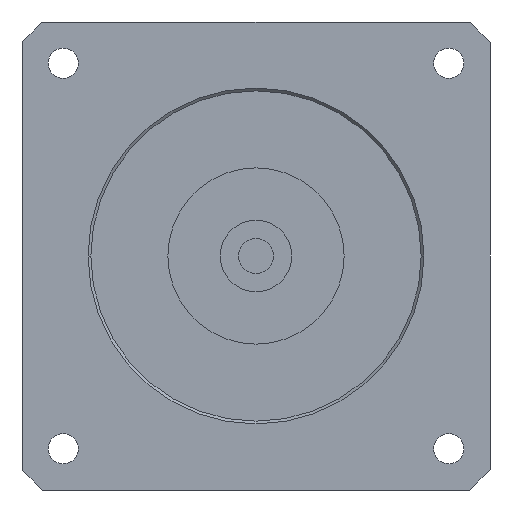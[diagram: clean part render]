
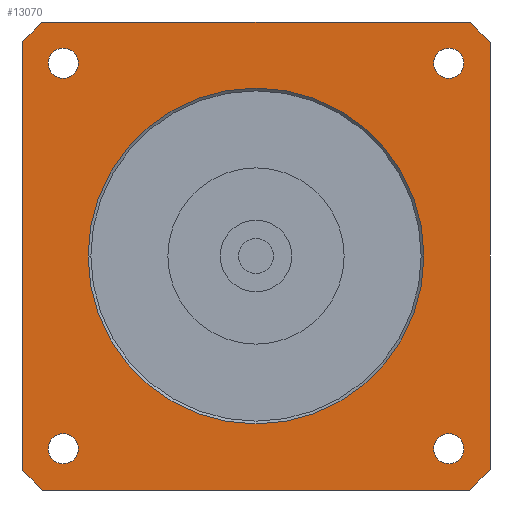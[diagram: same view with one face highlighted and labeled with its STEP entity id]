
A CAD part, left-side view. The second image highlights one B-rep face of the part: STEP entity #13070.
In plain terms, the highlighted planar face has unit normal (-1, 0, 0) as drawn and (0, 0, -1) by its records, which use the part's own axes.
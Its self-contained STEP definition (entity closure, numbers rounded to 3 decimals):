
#8640=CARTESIAN_POINT('',(-37.752,35.002,-36.));
#8650=VERTEX_POINT('',#8640);
#8830=CARTESIAN_POINT('',(-32.252,35.002,-36.));
#8840=VERTEX_POINT('',#8830);
#8870=CARTESIAN_POINT('',(-35.002,35.002,-36.));
#8880=DIRECTION('',(0.,0.,-1.));
#8890=DIRECTION('',(1.,0.,0.));
#8900=AXIS2_PLACEMENT_3D('',#8870,#8880,#8890);
#8910=CIRCLE('',#8900,2.75);
#8920=EDGE_CURVE('',#8650,#8840,#8910,.T.);
#9060=CARTESIAN_POINT('',(32.252,35.002,-36.));
#9070=VERTEX_POINT('',#9060);
#9250=CARTESIAN_POINT('',(37.752,35.002,-36.));
#9260=VERTEX_POINT('',#9250);
#9290=CARTESIAN_POINT('',(35.002,35.002,-36.));
#9300=DIRECTION('',(0.,0.,-1.));
#9310=DIRECTION('',(1.,0.,0.));
#9320=AXIS2_PLACEMENT_3D('',#9290,#9300,#9310);
#9330=CIRCLE('',#9320,2.75);
#9340=EDGE_CURVE('',#9070,#9260,#9330,.T.);
#11640=CARTESIAN_POINT('',(30.5,0.,-36.));
#11650=VERTEX_POINT('',#11640);
#11680=CARTESIAN_POINT('',(0.,0.,
-36.));
#11690=DIRECTION('',(0.,0.,1.));
#11700=DIRECTION('',(-1.,0.,0.));
#11710=AXIS2_PLACEMENT_3D('',#11680,#11690,#11700);
#11720=CIRCLE('',#11710,30.5);
#11730=CARTESIAN_POINT('',(-30.5,0.,-36.));
#11740=VERTEX_POINT('',#11730);
#11750=EDGE_CURVE('',#11650,#11740,#11720,.T.);
#11870=CARTESIAN_POINT('',(42.5,42.5,-36.));
#11880=DIRECTION('',(0.,0.,1.));
#11890=DIRECTION('',(-1.,0.,0.));
#11900=AXIS2_PLACEMENT_3D('',#11870,#11880,#11890);
#11910=PLANE('',#11900);
#11920=EDGE_CURVE('',#11740,#11650,#11720,.T.);
#11930=ORIENTED_EDGE('',*,*,#11920,.T.);
#11940=ORIENTED_EDGE('',*,*,#11750,.T.);
#11950=EDGE_LOOP('',(#11940,#11930));
#11960=FACE_BOUND('',#11950,.T.);
#11970=CARTESIAN_POINT('',(-35.002,-35.002,-36.));
#11980=DIRECTION('',(0.,0.,-1.));
#11990=DIRECTION('',(1.,0.,0.));
#12000=AXIS2_PLACEMENT_3D('',#11970,#11980,#11990);
#12010=CIRCLE('',#12000,2.75);
#12020=CARTESIAN_POINT('',(-32.252,-35.002,-36.));
#12030=VERTEX_POINT('',#12020);
#12040=CARTESIAN_POINT('',(-37.752,-35.002,-36.));
#12050=VERTEX_POINT('',#12040);
#12060=EDGE_CURVE('',#12030,#12050,#12010,.T.);
#12070=ORIENTED_EDGE('',*,*,#12060,.F.);
#12080=EDGE_CURVE('',#12050,#12030,#12010,.T.);
#12090=ORIENTED_EDGE('',*,*,#12080,.F.);
#12100=EDGE_LOOP('',(#12090,#12070));
#12110=FACE_BOUND('',#12100,.T.);
#12120=CARTESIAN_POINT('',(35.002,-35.002,-36.));
#12130=DIRECTION('',(0.,0.,-1.));
#12140=DIRECTION('',(1.,0.,0.));
#12150=AXIS2_PLACEMENT_3D('',#12120,#12130,#12140);
#12160=CIRCLE('',#12150,2.75);
#12170=CARTESIAN_POINT('',(37.752,-35.002,-36.));
#12180=VERTEX_POINT('',#12170);
#12190=CARTESIAN_POINT('',(32.252,-35.002,-36.));
#12200=VERTEX_POINT('',#12190);
#12210=EDGE_CURVE('',#12180,#12200,#12160,.T.);
#12220=ORIENTED_EDGE('',*,*,#12210,.F.);
#12230=EDGE_CURVE('',#12200,#12180,#12160,.T.);
#12240=ORIENTED_EDGE('',*,*,#12230,.F.);
#12250=EDGE_LOOP('',(#12240,#12220));
#12260=FACE_BOUND('',#12250,.T.);
#12270=EDGE_CURVE('',#9260,#9070,#9330,.T.);
#12280=ORIENTED_EDGE('',*,*,#12270,.F.);
#12290=ORIENTED_EDGE('',*,*,#9340,.F.);
#12300=EDGE_LOOP('',(#12290,#12280));
#12310=FACE_BOUND('',#12300,.T.);
#12320=EDGE_CURVE('',#8840,#8650,#8910,.T.);
#12330=ORIENTED_EDGE('',*,*,#12320,.F.);
#12340=ORIENTED_EDGE('',*,*,#8920,.F.);
#12350=EDGE_LOOP('',(#12340,#12330));
#12360=FACE_BOUND('',#12350,.T.);
#12370=CARTESIAN_POINT('',(0.,0.,
-36.));
#12380=DIRECTION('',(0.,0.,1.));
#12390=DIRECTION('',(1.,0.,0.));
#12400=AXIS2_PLACEMENT_3D('',#12370,#12380,#12390);
#12410=CIRCLE('',#12400,57.5);
#12420=CARTESIAN_POINT('',(-42.5,-38.73,-36.));
#12430=VERTEX_POINT('',#12420);
#12440=CARTESIAN_POINT('',(-38.73,-42.5,-36.));
#12450=VERTEX_POINT('',#12440);
#12460=EDGE_CURVE('',#12430,#12450,#12410,.T.);
#12470=ORIENTED_EDGE('',*,*,#12460,.F.);
#12480=CARTESIAN_POINT('',(-42.5,-42.5,-36.));
#12490=DIRECTION('',(1.,0.,0.));
#12500=VECTOR('',#12490,1000.);
#12510=LINE('',#12480,#12500);
#12520=CARTESIAN_POINT('',(38.73,-42.5,-36.));
#12530=VERTEX_POINT('',#12520);
#12540=EDGE_CURVE('',#12450,#12530,#12510,.T.);
#12550=ORIENTED_EDGE('',*,*,#12540,.F.);
#12560=CARTESIAN_POINT('',(0.,0.,
-36.));
#12570=DIRECTION('',(0.,0.,1.));
#12580=DIRECTION('',(1.,0.,0.));
#12590=AXIS2_PLACEMENT_3D('',#12560,#12570,#12580);
#12600=CIRCLE('',#12590,57.5);
#12610=CARTESIAN_POINT('',(42.5,-38.73,-36.));
#12620=VERTEX_POINT('',#12610);
#12630=EDGE_CURVE('',#12530,#12620,#12600,.T.);
#12640=ORIENTED_EDGE('',*,*,#12630,.F.);
#12650=CARTESIAN_POINT('',(42.5,-42.5,-36.));
#12660=DIRECTION('',(0.,1.,0.));
#12670=VECTOR('',#12660,1000.);
#12680=LINE('',#12650,#12670);
#12690=CARTESIAN_POINT('',(42.5,38.73,-36.));
#12700=VERTEX_POINT('',#12690);
#12710=EDGE_CURVE('',#12620,#12700,#12680,.T.);
#12720=ORIENTED_EDGE('',*,*,#12710,.F.);
#12730=CARTESIAN_POINT('',(0.,0.,
-36.));
#12740=DIRECTION('',(0.,0.,1.));
#12750=DIRECTION('',(1.,0.,0.));
#12760=AXIS2_PLACEMENT_3D('',#12730,#12740,#12750);
#12770=CIRCLE('',#12760,57.5);
#12780=CARTESIAN_POINT('',(38.73,42.5,-36.));
#12790=VERTEX_POINT('',#12780);
#12800=EDGE_CURVE('',#12700,#12790,#12770,.T.);
#12810=ORIENTED_EDGE('',*,*,#12800,.F.);
#12820=CARTESIAN_POINT('',(42.5,42.5,-36.));
#12830=DIRECTION('',(-1.,0.,0.));
#12840=VECTOR('',#12830,1000.);
#12850=LINE('',#12820,#12840);
#12860=CARTESIAN_POINT('',(-38.73,42.5,-36.));
#12870=VERTEX_POINT('',#12860);
#12880=EDGE_CURVE('',#12790,#12870,#12850,.T.);
#12890=ORIENTED_EDGE('',*,*,#12880,.F.);
#12900=CARTESIAN_POINT('',(0.,0.,
-36.));
#12910=DIRECTION('',(0.,0.,1.));
#12920=DIRECTION('',(1.,0.,0.));
#12930=AXIS2_PLACEMENT_3D('',#12900,#12910,#12920);
#12940=CIRCLE('',#12930,57.5);
#12950=CARTESIAN_POINT('',(-42.5,38.73,-36.));
#12960=VERTEX_POINT('',#12950);
#12970=EDGE_CURVE('',#12870,#12960,#12940,.T.);
#12980=ORIENTED_EDGE('',*,*,#12970,.F.);
#12990=CARTESIAN_POINT('',(-42.5,42.5,-36.));
#13000=DIRECTION('',(0.,-1.,0.));
#13010=VECTOR('',#13000,1000.);
#13020=LINE('',#12990,#13010);
#13030=EDGE_CURVE('',#12960,#12430,#13020,.T.);
#13040=ORIENTED_EDGE('',*,*,#13030,.F.);
#13050=EDGE_LOOP('',(#13040,#12980,#12890,#12810,#12720,#12640,#12550,
#12470));
#13060=FACE_OUTER_BOUND('',#13050,.T.);
#13070=ADVANCED_FACE('',(#11960,#12110,#12260,#12310,#12360,#13060),
#11910,.F.);
